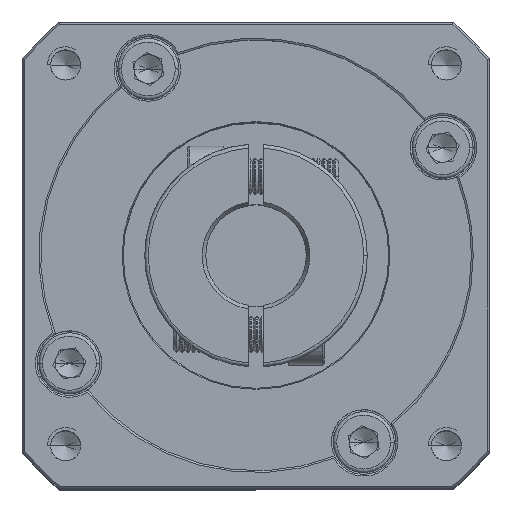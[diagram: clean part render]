
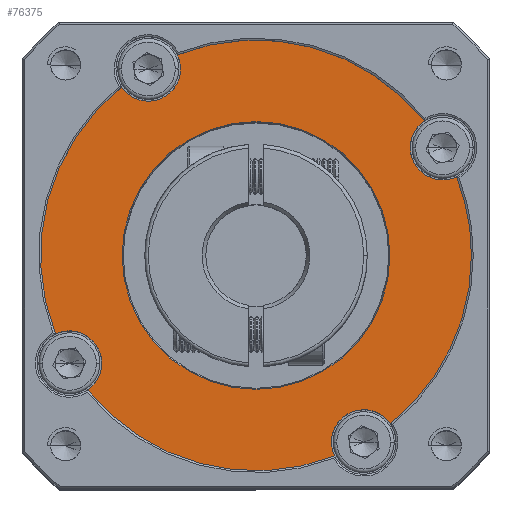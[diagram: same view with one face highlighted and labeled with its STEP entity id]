
A CAD part, top view. The second image highlights one B-rep face of the part: STEP entity #76375.
In plain terms, the highlighted planar face has unit normal (0, 0, 1).
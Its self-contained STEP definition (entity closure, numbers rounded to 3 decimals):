
#441 = AXIS2_PLACEMENT_3D ( 'NONE', #62357, #23439, #53755 ) ;
#964 = EDGE_CURVE ( 'NONE', #16653, #26927, #112542, .T. ) ;
#2580 = ORIENTED_EDGE ( 'NONE', *, *, #99675, .F. ) ;
#3307 = DIRECTION ( 'NONE',  ( 1., 0., 0. ) ) ;
#3822 = AXIS2_PLACEMENT_3D ( 'NONE', #114141, #115010, #104655 ) ;
#4617 = CARTESIAN_POINT ( 'NONE',  ( -57.98, 2.821, -2.424 ) ) ;
#5236 = CARTESIAN_POINT ( 'NONE',  ( -25.554, -10.111, -2.424 ) ) ;
#6674 = CARTESIAN_POINT ( 'NONE',  ( -8.567, 28.766, -2.424 ) ) ;
#9880 = DIRECTION ( 'NONE',  ( 0., 0., 1. ) ) ;
#11065 = ORIENTED_EDGE ( 'NONE', *, *, #42377, .F. ) ;
#11890 = EDGE_CURVE ( 'NONE', #12887, #105334, #123270, .T. ) ;
#12277 = ORIENTED_EDGE ( 'NONE', *, *, #49139, .T. ) ;
#12887 = VERTEX_POINT ( 'NONE', #29984 ) ;
#12965 = ORIENTED_EDGE ( 'NONE', *, *, #59966, .F. ) ;
#15571 = VERTEX_POINT ( 'NONE', #5236 ) ;
#15755 = AXIS2_PLACEMENT_3D ( 'NONE', #35851, #124486, #86341 ) ;
#15800 = PLANE ( 'NONE',  #87004 ) ;
#16270 = DIRECTION ( 'NONE',  ( 0., 0., 1. ) ) ;
#16653 = VERTEX_POINT ( 'NONE', #42103 ) ;
#17169 = CARTESIAN_POINT ( 'NONE',  ( -55.143, 17.821, -2.424 ) ) ;
#17507 = AXIS2_PLACEMENT_3D ( 'NONE', #49233, #39404, #107945 ) ;
#17986 = CARTESIAN_POINT ( 'NONE',  ( -21.499, -8.16, -2.424 ) ) ;
#19699 = CIRCLE ( 'NONE', #76889, 4.5 ) ;
#20421 = CARTESIAN_POINT ( 'NONE',  ( -64.431, 6.876, -2.424 ) ) ;
#20928 = CARTESIAN_POINT ( 'NONE',  ( -36.499, 17.821, -2.424 ) ) ;
#20956 = CARTESIAN_POINT ( 'NONE',  ( -51.499, 43.802, -2.424 ) ) ;
#22047 = ORIENTED_EDGE ( 'NONE', *, *, #59300, .F. ) ;
#22087 = DIRECTION ( 'NONE',  ( 0., 0., 1. ) ) ;
#23405 = ORIENTED_EDGE ( 'NONE', *, *, #11890, .T. ) ;
#23439 = DIRECTION ( 'NONE',  ( 0., 0., 1. ) ) ;
#23717 = AXIS2_PLACEMENT_3D ( 'NONE', #85623, #94217, #56068 ) ;
#24689 = EDGE_CURVE ( 'NONE', #66459, #123912, #44681, .T. ) ;
#26927 = VERTEX_POINT ( 'NONE', #91456 ) ;
#29984 = CARTESIAN_POINT ( 'NONE',  ( -55.216, 41.266, -2.424 ) ) ;
#31667 = DIRECTION ( 'NONE',  ( 0., 0., 1. ) ) ;
#33654 = CARTESIAN_POINT ( 'NONE',  ( -51.499, 43.802, -2.424 ) ) ;
#34587 = DIRECTION ( 'NONE',  ( 1., 0., 0. ) ) ;
#34681 = ORIENTED_EDGE ( 'NONE', *, *, #94387, .F. ) ;
#35851 = CARTESIAN_POINT ( 'NONE',  ( -36.499, 17.821, -2.424 ) ) ;
#36304 = CARTESIAN_POINT ( 'NONE',  ( -62.48, 2.821, -2.424 ) ) ;
#36345 = CIRCLE ( 'NONE', #17507, 4.5 ) ;
#39404 = DIRECTION ( 'NONE',  ( 0., 0., 1. ) ) ;
#39643 = CARTESIAN_POINT ( 'NONE',  ( -25.999, -8.16, -2.424 ) ) ;
#40816 = CIRCLE ( 'NONE', #104109, 4.5 ) ;
#41812 = DIRECTION ( 'NONE',  ( 0., 0., 1. ) ) ;
#41867 = DIRECTION ( 'NONE',  ( 0., 0., -1. ) ) ;
#42103 = CARTESIAN_POINT ( 'NONE',  ( -13.054, 36.539, -2.424 ) ) ;
#42377 = EDGE_CURVE ( 'NONE', #61154, #70108, #36345, .T. ) ;
#44681 = CIRCLE ( 'NONE', #3822, 4.5 ) ;
#45710 = CARTESIAN_POINT ( 'NONE',  ( -46.999, 43.802, -2.424 ) ) ;
#46055 = AXIS2_PLACEMENT_3D ( 'NONE', #114535, #66134, #105453 ) ;
#47198 = DIRECTION ( 'NONE',  ( 1., 0., 0. ) ) ;
#49139 = EDGE_CURVE ( 'NONE', #76688, #70108, #69778, .T. ) ;
#49233 = CARTESIAN_POINT ( 'NONE',  ( -10.518, 32.821, -2.424 ) ) ;
#50750 = CARTESIAN_POINT ( 'NONE',  ( -6.499, 17.821, -2.424 ) ) ;
#52004 = AXIS2_PLACEMENT_3D ( 'NONE', #52312, #72927, #91318 ) ;
#52108 = EDGE_CURVE ( 'NONE', #68832, #15571, #40816, .T. ) ;
#52312 = CARTESIAN_POINT ( 'NONE',  ( -10.518, 32.821, -2.424 ) ) ;
#52907 = ORIENTED_EDGE ( 'NONE', *, *, #118828, .T. ) ;
#52933 = AXIS2_PLACEMENT_3D ( 'NONE', #36304, #16270, #84718 ) ;
#53015 = ORIENTED_EDGE ( 'NONE', *, *, #63212, .T. ) ;
#53172 = CARTESIAN_POINT ( 'NONE',  ( -17.782, -5.624, -2.424 ) ) ;
#53755 = DIRECTION ( 'NONE',  ( 1., 0., 0. ) ) ;
#56068 = DIRECTION ( 'NONE',  ( 1., 0., 0. ) ) ;
#59300 = EDGE_CURVE ( 'NONE', #16653, #61154, #110380, .T. ) ;
#59966 = EDGE_CURVE ( 'NONE', #123912, #105334, #65674, .T. ) ;
#61154 = VERTEX_POINT ( 'NONE', #98542 ) ;
#61749 = CARTESIAN_POINT ( 'NONE',  ( -17.855, 17.821, -2.424 ) ) ;
#62357 = CARTESIAN_POINT ( 'NONE',  ( -36.499, 17.821, -2.424 ) ) ;
#63212 = EDGE_CURVE ( 'NONE', #102066, #92611, #121758, .T. ) ;
#65674 = CIRCLE ( 'NONE', #52933, 4.5 ) ;
#66134 = DIRECTION ( 'NONE',  ( 0., 0., -1. ) ) ;
#66276 = ORIENTED_EDGE ( 'NONE', *, *, #24689, .F. ) ;
#66459 = VERTEX_POINT ( 'NONE', #123035 ) ;
#67689 = CIRCLE ( 'NONE', #119788, 18.644 ) ;
#67710 = DIRECTION ( 'NONE',  ( 1., 0., 0. ) ) ;
#67901 = ORIENTED_EDGE ( 'NONE', *, *, #52108, .F. ) ;
#67929 = AXIS2_PLACEMENT_3D ( 'NONE', #17986, #86425, #67710 ) ;
#68832 = VERTEX_POINT ( 'NONE', #39643 ) ;
#69778 = CIRCLE ( 'NONE', #441, 30. ) ;
#70108 = VERTEX_POINT ( 'NONE', #6674 ) ;
#71652 = ORIENTED_EDGE ( 'NONE', *, *, #106681, .F. ) ;
#71745 = DIRECTION ( 'NONE',  ( 1., 0., 0. ) ) ;
#71833 = AXIS2_PLACEMENT_3D ( 'NONE', #33654, #41812, #3307 ) ;
#72927 = DIRECTION ( 'NONE',  ( 0., 0., 1. ) ) ;
#76375 = ADVANCED_FACE ( 'NONE', ( #99113, #108355 ), #15800, .T. ) ;
#76688 = VERTEX_POINT ( 'NONE', #50750 ) ;
#76889 = AXIS2_PLACEMENT_3D ( 'NONE', #20956, #31667, #99724 ) ;
#78345 = DIRECTION ( 'NONE',  ( 1., 0., 0. ) ) ;
#79543 = ORIENTED_EDGE ( 'NONE', *, *, #964, .T. ) ;
#81064 = EDGE_CURVE ( 'NONE', #115624, #76688, #110574, .T. ) ;
#82324 = EDGE_LOOP ( 'NONE', ( #52907, #53015 ) ) ;
#83809 = DIRECTION ( 'NONE',  ( 0., 0., 1. ) ) ;
#84718 = DIRECTION ( 'NONE',  ( 1., 0., 0. ) ) ;
#85623 = CARTESIAN_POINT ( 'NONE',  ( -36.499, 17.821, -2.424 ) ) ;
#86341 = DIRECTION ( 'NONE',  ( 1., 0., 0. ) ) ;
#86425 = DIRECTION ( 'NONE',  ( 0., 0., 1. ) ) ;
#87004 = AXIS2_PLACEMENT_3D ( 'NONE', #122390, #83809, #34587 ) ;
#89406 = DIRECTION ( 'NONE',  ( 1., 0., 0. ) ) ;
#91247 = CIRCLE ( 'NONE', #67929, 4.5 ) ;
#91318 = DIRECTION ( 'NONE',  ( 1., 0., 0. ) ) ;
#91456 = CARTESIAN_POINT ( 'NONE',  ( -47.444, 45.753, -2.424 ) ) ;
#92611 = VERTEX_POINT ( 'NONE', #61749 ) ;
#92623 = AXIS2_PLACEMENT_3D ( 'NONE', #119726, #22087, #71745 ) ;
#94217 = DIRECTION ( 'NONE',  ( 0., 0., 1. ) ) ;
#94387 = EDGE_CURVE ( 'NONE', #115624, #68832, #91247, .T. ) ;
#95632 = EDGE_CURVE ( 'NONE', #66459, #15571, #118693, .T. ) ;
#96411 = VERTEX_POINT ( 'NONE', #45710 ) ;
#98446 = AXIS2_PLACEMENT_3D ( 'NONE', #125176, #105505, #47198 ) ;
#98542 = CARTESIAN_POINT ( 'NONE',  ( -15.018, 32.821, -2.424 ) ) ;
#98919 = ORIENTED_EDGE ( 'NONE', *, *, #81064, .T. ) ;
#99113 = FACE_BOUND ( 'NONE', #82324, .T. ) ;
#99675 = EDGE_CURVE ( 'NONE', #12887, #96411, #111162, .T. ) ;
#99724 = DIRECTION ( 'NONE',  ( 1., 0., 0. ) ) ;
#102066 = VERTEX_POINT ( 'NONE', #17169 ) ;
#104109 = AXIS2_PLACEMENT_3D ( 'NONE', #107909, #9880, #78345 ) ;
#104655 = DIRECTION ( 'NONE',  ( 1., 0., 0. ) ) ;
#105334 = VERTEX_POINT ( 'NONE', #20421 ) ;
#105453 = DIRECTION ( 'NONE',  ( 1., 0., 0. ) ) ;
#105505 = DIRECTION ( 'NONE',  ( 0., 0., 1. ) ) ;
#106681 = EDGE_CURVE ( 'NONE', #96411, #26927, #19699, .T. ) ;
#107597 = EDGE_LOOP ( 'NONE', ( #66276, #120729, #67901, #34681, #98919, #12277, #11065, #22047, #79543, #71652, #2580, #23405, #12965 ) ) ;
#107909 = CARTESIAN_POINT ( 'NONE',  ( -21.499, -8.16, -2.424 ) ) ;
#107945 = DIRECTION ( 'NONE',  ( 1., 0., 0. ) ) ;
#108355 = FACE_OUTER_BOUND ( 'NONE', #107597, .T. ) ;
#110380 = CIRCLE ( 'NONE', #52004, 4.5 ) ;
#110574 = CIRCLE ( 'NONE', #23717, 30. ) ;
#111162 = CIRCLE ( 'NONE', #71833, 4.5 ) ;
#112542 = CIRCLE ( 'NONE', #15755, 30. ) ;
#114141 = CARTESIAN_POINT ( 'NONE',  ( -62.48, 2.821, -2.424 ) ) ;
#114535 = CARTESIAN_POINT ( 'NONE',  ( -36.499, 17.821, -2.424 ) ) ;
#115010 = DIRECTION ( 'NONE',  ( 0., 0., 1. ) ) ;
#115624 = VERTEX_POINT ( 'NONE', #53172 ) ;
#118693 = CIRCLE ( 'NONE', #98446, 30. ) ;
#118828 = EDGE_CURVE ( 'NONE', #92611, #102066, #67689, .T. ) ;
#119726 = CARTESIAN_POINT ( 'NONE',  ( -36.499, 17.821, -2.424 ) ) ;
#119788 = AXIS2_PLACEMENT_3D ( 'NONE', #20928, #41867, #89406 ) ;
#120729 = ORIENTED_EDGE ( 'NONE', *, *, #95632, .T. ) ;
#121758 = CIRCLE ( 'NONE', #46055, 18.644 ) ;
#122390 = CARTESIAN_POINT ( 'NONE',  ( -36.499, 17.821, -2.424 ) ) ;
#123035 = CARTESIAN_POINT ( 'NONE',  ( -59.944, -0.896, -2.424 ) ) ;
#123270 = CIRCLE ( 'NONE', #92623, 30. ) ;
#123912 = VERTEX_POINT ( 'NONE', #4617 ) ;
#124486 = DIRECTION ( 'NONE',  ( 0., 0., 1. ) ) ;
#125176 = CARTESIAN_POINT ( 'NONE',  ( -36.499, 17.821, -2.424 ) ) ;
